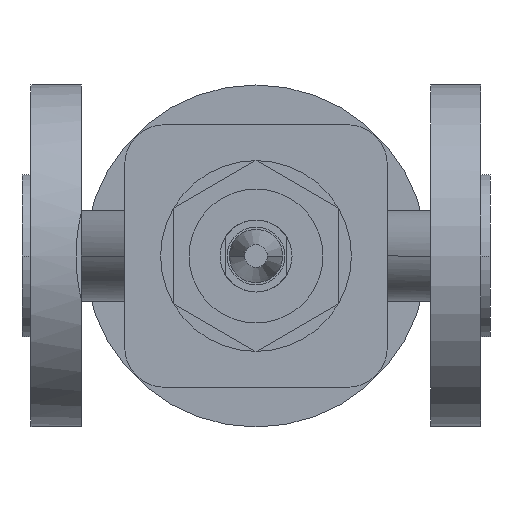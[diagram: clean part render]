
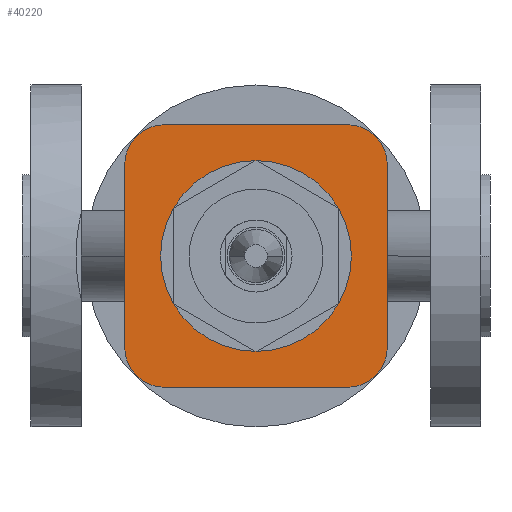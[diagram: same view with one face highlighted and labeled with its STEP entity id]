
A CAD part, front view. The second image highlights one B-rep face of the part: STEP entity #40220.
In plain terms, the highlighted planar face has unit normal (0, -1, 0).
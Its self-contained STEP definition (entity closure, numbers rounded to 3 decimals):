
#9420=CARTESIAN_POINT('',(38.5,-69.5,0.));
#9430=VERTEX_POINT('',#9420);
#9590=CARTESIAN_POINT('',(91.5,-69.5,0.));
#9600=VERTEX_POINT('',#9590);
#9630=CARTESIAN_POINT('',(65.,-69.5,0.));
#9640=DIRECTION('',(0.,-1.,0.));
#9650=DIRECTION('',(-1.,0.,0.));
#9660=AXIS2_PLACEMENT_3D('',#9630,#9640,#9650);
#9670=CIRCLE('',#9660,26.5);
#9680=EDGE_CURVE('',#9430,#9600,#9670,.T.);
#33500=CARTESIAN_POINT('',(101.456,-69.5,-25.456));
#33510=VERTEX_POINT('',#33500);
#33540=CARTESIAN_POINT('',(101.456,-69.5,12.728));
#33550=DIRECTION('',(0.,0.,1.));
#33560=VECTOR('',#33550,1.);
#33570=LINE('',#33540,#33560);
#33580=CARTESIAN_POINT('',(101.456,-69.5,25.456));
#33590=VERTEX_POINT('',#33580);
#33600=EDGE_CURVE('',#33510,#33590,#33570,.T.);
#34270=CARTESIAN_POINT('',(90.456,-69.5,-36.456));
#34280=VERTEX_POINT('',#34270);
#34330=CARTESIAN_POINT('',(90.456,-69.5,-25.456));
#34340=DIRECTION('',(0.,-1.,0.));
#34350=DIRECTION('',(1.,0.,0.));
#34360=AXIS2_PLACEMENT_3D('',#34330,#34340,#34350);
#34370=CIRCLE('',#34360,11.);
#34380=EDGE_CURVE('',#34280,#33510,#34370,.T.);
#35320=CARTESIAN_POINT('',(39.544,-69.5,-36.456));
#35330=VERTEX_POINT('',#35320);
#35360=CARTESIAN_POINT('',(59.103,-69.5,-36.456));
#35370=DIRECTION('',(1.,0.,0.));
#35380=VECTOR('',#35370,1.);
#35390=LINE('',#35360,#35380);
#35400=EDGE_CURVE('',#35330,#34280,#35390,.T.);
#36310=CARTESIAN_POINT('',(28.544,-69.5,-25.456));
#36320=VERTEX_POINT('',#36310);
#36370=CARTESIAN_POINT('',(39.544,-69.5,-25.456));
#36380=DIRECTION('',(0.,-1.,0.));
#36390=DIRECTION('',(0.,0.,-1.));
#36400=AXIS2_PLACEMENT_3D('',#36370,#36380,#36390);
#36410=CIRCLE('',#36400,11.);
#36420=EDGE_CURVE('',#36320,#35330,#36410,.T.);
#37600=CARTESIAN_POINT('',(28.544,-69.5,25.456));
#37610=VERTEX_POINT('',#37600);
#37640=CARTESIAN_POINT('',(28.544,-69.5,-12.728));
#37650=DIRECTION('',(0.,0.,-1.));
#37660=VECTOR('',#37650,1.);
#37670=LINE('',#37640,#37660);
#37680=EDGE_CURVE('',#37610,#36320,#37670,.T.);
#37960=CARTESIAN_POINT('',(39.544,-69.5,36.456));
#37970=VERTEX_POINT('',#37960);
#38020=CARTESIAN_POINT('',(39.544,-69.5,25.456));
#38030=DIRECTION('',(0.,-1.,0.));
#38040=DIRECTION('',(-1.,0.,0.));
#38050=AXIS2_PLACEMENT_3D('',#38020,#38030,#38040);
#38060=CIRCLE('',#38050,11.);
#38070=EDGE_CURVE('',#37970,#37610,#38060,.T.);
#38380=CARTESIAN_POINT('',(90.456,-69.5,36.456));
#38390=VERTEX_POINT('',#38380);
#38420=CARTESIAN_POINT('',(33.647,-69.5,36.456));
#38430=DIRECTION('',(-1.,0.,0.));
#38440=VECTOR('',#38430,1.);
#38450=LINE('',#38420,#38440);
#38460=EDGE_CURVE('',#38390,#37970,#38450,.T.);
#38710=CARTESIAN_POINT('',(90.456,-69.5,25.456));
#38720=DIRECTION('',(0.,-1.,0.));
#38730=DIRECTION('',(0.,0.,1.));
#38740=AXIS2_PLACEMENT_3D('',#38710,#38720,#38730);
#38750=CIRCLE('',#38740,11.);
#38760=EDGE_CURVE('',#33590,#38390,#38750,.T.);
#40020=CARTESIAN_POINT('',(27.75,-69.5,0.));
#40030=DIRECTION('',(0.,-1.,0.));
#40040=DIRECTION('',(-1.,0.,0.));
#40050=AXIS2_PLACEMENT_3D('',#40020,#40030,#40040);
#40060=PLANE('',#40050);
#40070=ORIENTED_EDGE('',*,*,#38070,.T.);
#40080=ORIENTED_EDGE('',*,*,#38460,.T.);
#40090=ORIENTED_EDGE('',*,*,#38760,.T.);
#40100=ORIENTED_EDGE('',*,*,#33600,.T.);
#40110=ORIENTED_EDGE('',*,*,#34380,.T.);
#40120=ORIENTED_EDGE('',*,*,#35400,.T.);
#40130=ORIENTED_EDGE('',*,*,#36420,.T.);
#40140=ORIENTED_EDGE('',*,*,#37680,.T.);
#40150=EDGE_LOOP('',(#40140,#40130,#40120,#40110,#40100,#40090,#40080,
#40070));
#40160=FACE_OUTER_BOUND('',#40150,.T.);
#40170=EDGE_CURVE('',#9600,#9430,#9670,.T.);
#40180=ORIENTED_EDGE('',*,*,#40170,.F.);
#40190=ORIENTED_EDGE('',*,*,#9680,.F.);
#40200=EDGE_LOOP('',(#40190,#40180));
#40210=FACE_BOUND('',#40200,.T.);
#40220=ADVANCED_FACE('',(#40160,#40210),#40060,.T.);
